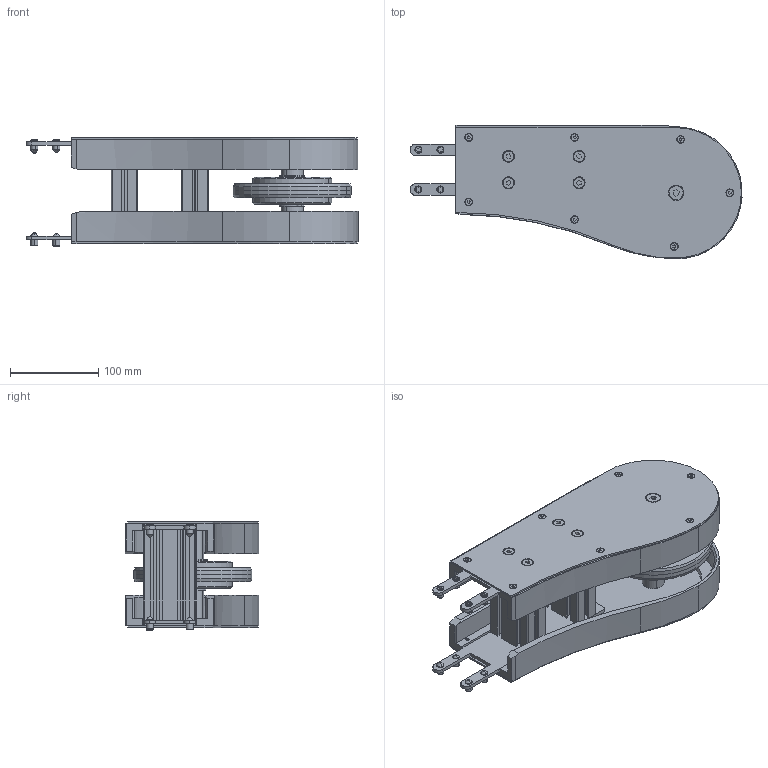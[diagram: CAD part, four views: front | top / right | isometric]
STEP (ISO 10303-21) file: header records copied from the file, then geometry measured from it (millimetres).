
FILE_DESCRIPTION (( 'STEP AP214' ), '1' );
FILE_NAME ('2000.450.200.STEP', '2021-06-18T07:46:26', ( 'Localadmin' ), ( 'Microsoft' ), 'SwSTEP 2.0', 'SolidWorks 2018', '' );
FILE_SCHEMA (( 'AUTOMOTIVE_DESIGN' ));
Length unit declared in the file: millimetre
Products named in the file (17): 2000.001.229; VITI TSEI UNI 5933 INOX_0820UNI5933A2; VITI TSEI UNI 5933 INOX_0620UNI5933A2; VITI TSEI UNI 5933 INOX_0410UNI5933A2; GRANI A PUNTA CONICA UNI 5927 INOX_M8x14 UNI 5927 INOX; 25UNI7435_25UNI7435; 2000.001.213; 0630UNI8735; 2000.001.212; 2000.450.001; 2000.001.001; 2000.001.224; 2000.450.201-1S; 2000.001.220; 2000.001.221; 2000.450.200; 2000.001.230
Assembly tree (50 placements, depth 3):
  2000.450.200
    2000.001.221
    2000.001.220
    2000.450.201-1S
    2000.001.224  x2
    2000.001.001  x2
    2000.450.001  x2
    2000.001.213
      2000.001.212  x2
      0630UNI8735  x2
    25UNI7435_25UNI7435  x2
    GRANI A PUNTA CONICA UNI 5927 INOX_M8x14 UNI 5927 INOX  x8
    VITI TSEI UNI 5933 INOX_0410UNI5933A2  x14
    VITI TSEI UNI 5933 INOX_0620UNI5933A2  x8
    VITI TSEI UNI 5933 INOX_0820UNI5933A2  x2
    2000.001.229
    2000.001.230
Bounding box: 376.08 x 151.5 x 122.85 mm (x, y, z)
Volume: 1282260.5 mm3; surface area: 606028.4 mm2
Topology: 49 solids, 49 shells, 1194 faces, 2958 edges, 1898 vertices
Faces by surface type: plane 586, cylinder 392, cone 216
Entity records: 16870 total; most frequent: DIRECTION 2922, CARTESIAN_POINT 2737, ORIENTED_EDGE 2624, EDGE_CURVE 1312, AXIS2_PLACEMENT_3D 1067, VERTEX_POINT 858, LINE 788, VECTOR 788
